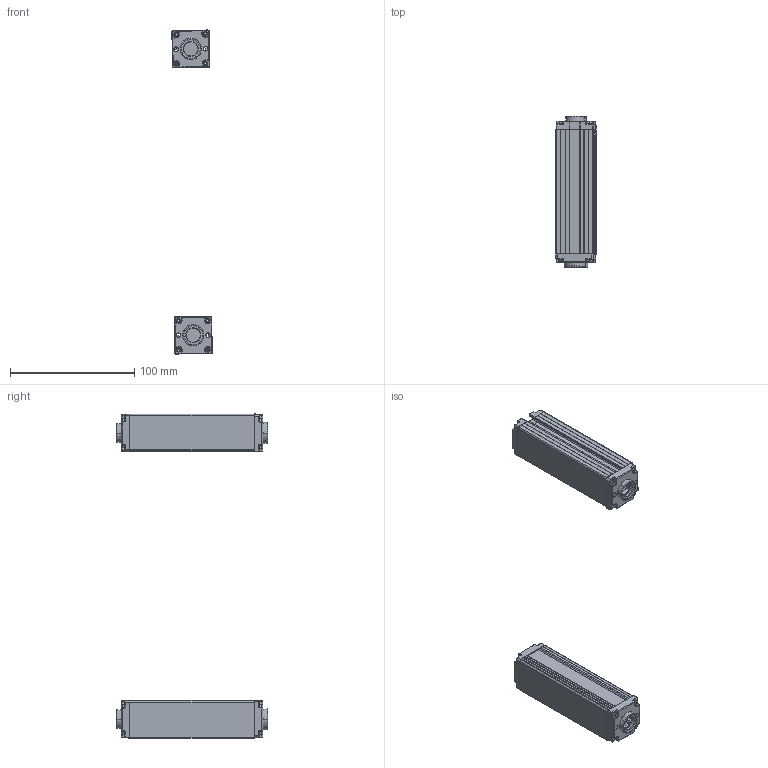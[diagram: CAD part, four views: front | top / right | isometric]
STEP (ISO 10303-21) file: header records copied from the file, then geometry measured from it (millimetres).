
FILE_DESCRIPTION (( 'STEP AP203' ), '1' );
FILE_NAME ('ZDA0810-100.STEP', '2022-08-30T02:54:40', ( 'Windows 蚚誧' ), ( 'Organization' ), 'SwSTEP 2.0', 'SolidWorks 2020', '' );
FILE_SCHEMA (( 'CONFIG_CONTROL_DESIGN' ));
Length unit declared in the file: millimetre
Products named in the file (5): 錨璃10; 錨璃1; ZDA0810-100; 錨璃8; 錨璃8 - 萵掛 (2)
Assembly tree (8 placements, depth 2):
  ZDA0810-100
    錨璃1  x2
    錨璃8  x2
    錨璃8 - 萵掛 (2)  x2
    錨璃10  x2
Bounding box: 32.36 x 121.4 x 260.35 mm (x, y, z)
Volume: 74113.5 mm3; surface area: 81527.6 mm2
Topology: 8 solids, 8 shells, 1032 faces, 2690 edges, 1668 vertices
Faces by surface type: plane 464, cylinder 310, cone 120, bspline 58, torus 48, sphere 32
Entity records: 17901 total; most frequent: CARTESIAN_POINT 4731, ORIENTED_EDGE 2666, DIRECTION 2616, EDGE_CURVE 1333, AXIS2_PLACEMENT_3D 894, VERTEX_POINT 834, LINE 828, VECTOR 828
